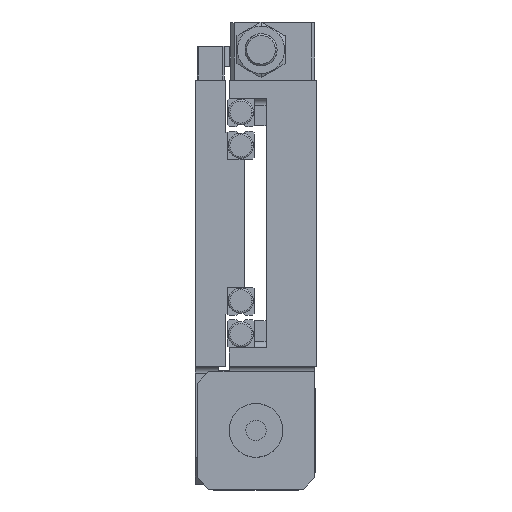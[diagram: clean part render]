
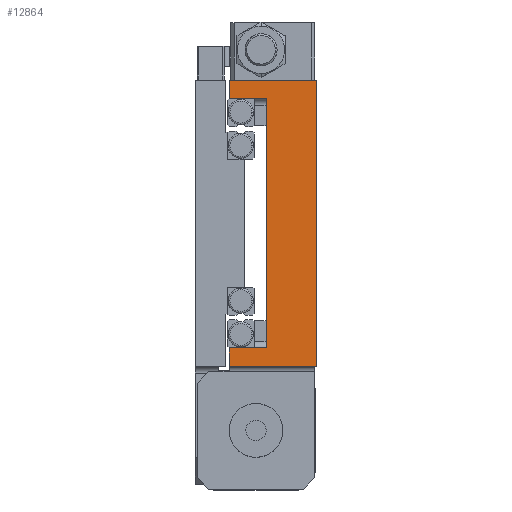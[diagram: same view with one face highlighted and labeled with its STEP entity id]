
A CAD part, left-side view. The second image highlights one B-rep face of the part: STEP entity #12864.
In plain terms, the highlighted planar face has unit normal (-1, 0, 0).
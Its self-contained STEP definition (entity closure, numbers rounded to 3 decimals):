
#424 = LINE ( 'NONE', #17877, #18007 ) ;
#872 = VERTEX_POINT ( 'NONE', #17733 ) ;
#1465 = EDGE_CURVE ( 'NONE', #872, #9070, #3270, .T. ) ;
#1551 = VECTOR ( 'NONE', #2640, 1000. ) ;
#1589 = DIRECTION ( 'NONE',  ( 0., 1., 0. ) ) ;
#1964 = VECTOR ( 'NONE', #6928, 1000. ) ;
#2622 = VECTOR ( 'NONE', #22305, 1000. ) ;
#2640 = DIRECTION ( 'NONE',  ( 0., 0., 1. ) ) ;
#2722 = LINE ( 'NONE', #10497, #2622 ) ;
#2746 = CARTESIAN_POINT ( 'NONE',  ( -127.5, 15., -29. ) ) ;
#2780 = CARTESIAN_POINT ( 'NONE',  ( -127.5, 18.5, 37. ) ) ;
#3092 = VECTOR ( 'NONE', #3524, 1000. ) ;
#3270 = LINE ( 'NONE', #5681, #3092 ) ;
#3321 = VERTEX_POINT ( 'NONE', #17782 ) ;
#3371 = CARTESIAN_POINT ( 'NONE',  ( -127.5, 18.5, -37. ) ) ;
#3524 = DIRECTION ( 'NONE',  ( 0., -1., 0. ) ) ;
#3536 = DIRECTION ( 'NONE',  ( 0., 0., -1. ) ) ;
#3782 = DIRECTION ( 'NONE',  ( 1., 0., 0. ) ) ;
#4708 = EDGE_CURVE ( 'NONE', #6927, #17167, #6572, .T. ) ;
#4893 = LINE ( 'NONE', #2746, #1964 ) ;
#5275 = CARTESIAN_POINT ( 'NONE',  ( -127.5, 26., 42.5 ) ) ;
#5609 = AXIS2_PLACEMENT_3D ( 'NONE', #9391, #3782, #3536 ) ;
#5681 = CARTESIAN_POINT ( 'NONE',  ( -127.5, 26., 42.5 ) ) ;
#5755 = CARTESIAN_POINT ( 'NONE',  ( -127.5, 15., -37. ) ) ;
#6402 = EDGE_CURVE ( 'NONE', #3321, #13597, #10439, .T. ) ;
#6434 = ORIENTED_EDGE ( 'NONE', *, *, #13295, .F. ) ;
#6572 = LINE ( 'NONE', #10289, #1551 ) ;
#6903 = CARTESIAN_POINT ( 'NONE',  ( -127.5, 0., 42.5 ) ) ;
#6927 = VERTEX_POINT ( 'NONE', #21957 ) ;
#6928 = DIRECTION ( 'NONE',  ( 0., 0., 1. ) ) ;
#6972 = DIRECTION ( 'NONE',  ( 0., 1., 0. ) ) ;
#7053 = DIRECTION ( 'NONE',  ( 0., 0., 1. ) ) ;
#7170 = ORIENTED_EDGE ( 'NONE', *, *, #9316, .F. ) ;
#7192 = LINE ( 'NONE', #3371, #24887 ) ;
#7720 = PLANE ( 'NONE',  #5609 ) ;
#7763 = VERTEX_POINT ( 'NONE', #14478 ) ;
#8375 = VERTEX_POINT ( 'NONE', #5755 ) ;
#9070 = VERTEX_POINT ( 'NONE', #6903 ) ;
#9316 = EDGE_CURVE ( 'NONE', #7763, #6927, #2722, .T. ) ;
#9346 = LINE ( 'NONE', #5275, #14485 ) ;
#9383 = ORIENTED_EDGE ( 'NONE', *, *, #4708, .F. ) ;
#9391 = CARTESIAN_POINT ( 'NONE',  ( -127.5, 26., 42.5 ) ) ;
#9461 = ORIENTED_EDGE ( 'NONE', *, *, #25079, .F. ) ;
#10289 = CARTESIAN_POINT ( 'NONE',  ( -127.5, 26., 42.5 ) ) ;
#10439 = LINE ( 'NONE', #2780, #15359 ) ;
#10497 = CARTESIAN_POINT ( 'NONE',  ( -127.5, 0., -42.5 ) ) ;
#11564 = CARTESIAN_POINT ( 'NONE',  ( -127.5, 26., -37. ) ) ;
#12864 = ADVANCED_FACE ( 'NONE', ( #24784 ), #7720, .F. ) ;
#13295 = EDGE_CURVE ( 'NONE', #8375, #3321, #4893, .T. ) ;
#13597 = VERTEX_POINT ( 'NONE', #14686 ) ;
#13914 = DIRECTION ( 'NONE',  ( 0., 0., 1. ) ) ;
#13999 = ORIENTED_EDGE ( 'NONE', *, *, #1465, .F. ) ;
#14035 = ORIENTED_EDGE ( 'NONE', *, *, #6402, .F. ) ;
#14478 = CARTESIAN_POINT ( 'NONE',  ( -127.5, 0., -42.5 ) ) ;
#14485 = VECTOR ( 'NONE', #7053, 1000. ) ;
#14686 = CARTESIAN_POINT ( 'NONE',  ( -127.5, 26., 37. ) ) ;
#15359 = VECTOR ( 'NONE', #6972, 1000. ) ;
#16594 = ORIENTED_EDGE ( 'NONE', *, *, #16859, .T. ) ;
#16859 = EDGE_CURVE ( 'NONE', #7763, #9070, #424, .T. ) ;
#17167 = VERTEX_POINT ( 'NONE', #11564 ) ;
#17477 = EDGE_CURVE ( 'NONE', #8375, #17167, #7192, .T. ) ;
#17733 = CARTESIAN_POINT ( 'NONE',  ( -127.5, 26., 42.5 ) ) ;
#17782 = CARTESIAN_POINT ( 'NONE',  ( -127.5, 15., 37. ) ) ;
#17877 = CARTESIAN_POINT ( 'NONE',  ( -127.5, 0., 42.5 ) ) ;
#17900 = EDGE_LOOP ( 'NONE', ( #6434, #23579, #9383, #7170, #16594, #13999, #9461, #14035 ) ) ;
#18007 = VECTOR ( 'NONE', #13914, 1000. ) ;
#21957 = CARTESIAN_POINT ( 'NONE',  ( -127.5, 26., -42.5 ) ) ;
#22305 = DIRECTION ( 'NONE',  ( 0., 1., 0. ) ) ;
#23579 = ORIENTED_EDGE ( 'NONE', *, *, #17477, .T. ) ;
#24784 = FACE_OUTER_BOUND ( 'NONE', #17900, .T. ) ;
#24887 = VECTOR ( 'NONE', #1589, 1000. ) ;
#25079 = EDGE_CURVE ( 'NONE', #13597, #872, #9346, .T. ) ;
